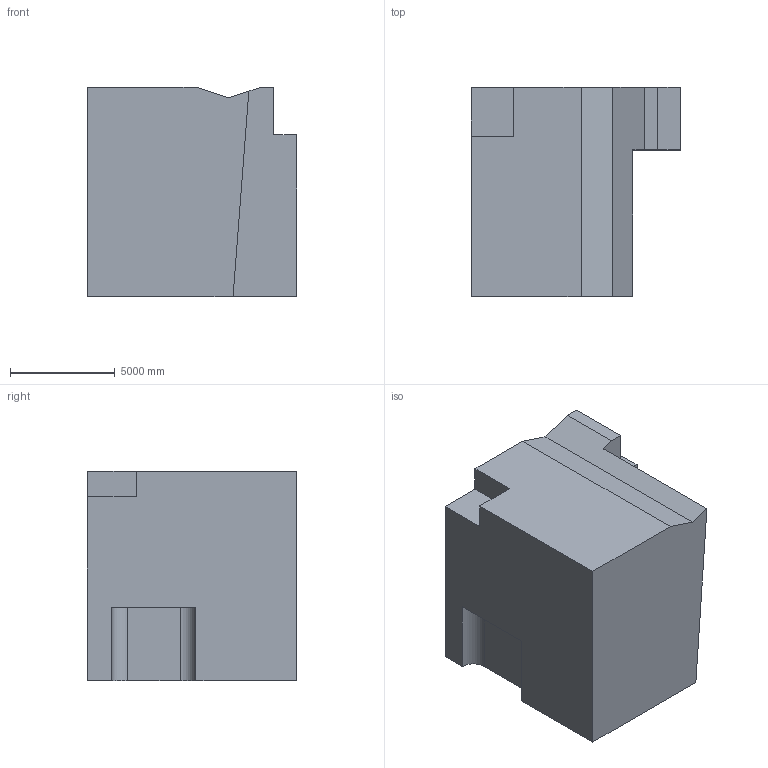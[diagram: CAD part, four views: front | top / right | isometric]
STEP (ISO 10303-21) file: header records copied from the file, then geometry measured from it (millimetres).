
FILE_DESCRIPTION (( 'STEP AP203' ), '1' );
FILE_NAME ('1572.STEP', '2022-08-18T15:52:45', ( 'user' ), ( '' ), 'SwSTEP 2.0', 'SolidWorks 2021', '' );
FILE_SCHEMA (( 'CONFIG_CONTROL_DESIGN' ));
Length unit declared in the file: centimetre
Products named in the file (1): 1572
Bounding box: 10000 x 10000 x 10000 mm (x, y, z)
Volume: 742976173142.8 mm3; surface area: 629722739.1 mm2
Topology: 1 solids, 1 shells, 25 faces, 66 edges, 44 vertices
Faces by surface type: plane 23, cylinder 2
Entity records: 841 total; most frequent: CARTESIAN_POINT 136, ORIENTED_EDGE 132, DIRECTION 122, EDGE_CURVE 66, LINE 62, VECTOR 62, VERTEX_POINT 44, AXIS2_PLACEMENT_3D 30
